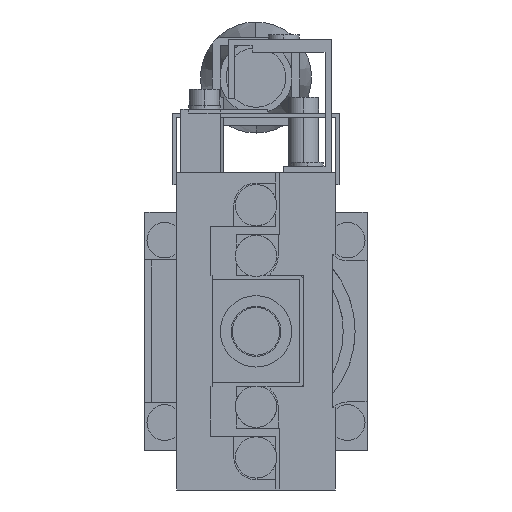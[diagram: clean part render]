
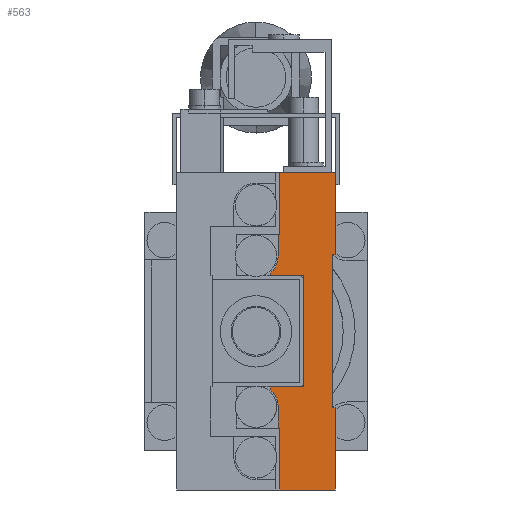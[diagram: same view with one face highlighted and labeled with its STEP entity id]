
A CAD part, left-side view. The second image highlights one B-rep face of the part: STEP entity #563.
In plain terms, the highlighted planar face has unit normal (-1, 0, 0).
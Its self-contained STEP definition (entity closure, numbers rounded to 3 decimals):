
#563=ADVANCED_FACE('',(#1567),#1568,.F.);
#1567=FACE_OUTER_BOUND('',#3120,.T.);
#1568=PLANE('',#3121);
#3120=EDGE_LOOP('',(#6092,#6093,#6094,#6095,#6096,#6097,#6098,#6099,#6100,#6101,#6102,#6103,#6104,#6105,#6106,#6107,#6108,#6109,#6110,#6111));
#3121=AXIS2_PLACEMENT_3D('',#6112,#6113,#6114);
#6092=ORIENTED_EDGE('',*,*,#10488,.T.);
#6093=ORIENTED_EDGE('',*,*,#10552,.T.);
#6094=ORIENTED_EDGE('',*,*,#10497,.T.);
#6095=ORIENTED_EDGE('',*,*,#10612,.F.);
#6096=ORIENTED_EDGE('',*,*,#10613,.F.);
#6097=ORIENTED_EDGE('',*,*,#10534,.F.);
#6098=ORIENTED_EDGE('',*,*,#10603,.F.);
#6099=ORIENTED_EDGE('',*,*,#10614,.F.);
#6100=ORIENTED_EDGE('',*,*,#10476,.F.);
#6101=ORIENTED_EDGE('',*,*,#10527,.F.);
#6102=ORIENTED_EDGE('',*,*,#10615,.F.);
#6103=ORIENTED_EDGE('',*,*,#10562,.F.);
#6104=ORIENTED_EDGE('',*,*,#10541,.F.);
#6105=ORIENTED_EDGE('',*,*,#10616,.F.);
#6106=ORIENTED_EDGE('',*,*,#10617,.T.);
#6107=ORIENTED_EDGE('',*,*,#10549,.T.);
#6108=ORIENTED_EDGE('',*,*,#10505,.T.);
#6109=ORIENTED_EDGE('',*,*,#10569,.F.);
#6110=ORIENTED_EDGE('',*,*,#10482,.F.);
#6111=ORIENTED_EDGE('',*,*,#10618,.F.);
#6112=CARTESIAN_POINT('',(-20.0,0.,0.0));
#6113=DIRECTION('',(1.0,0.0,0.0));
#6114=DIRECTION('',(0.0,1.0,0.0));
#10476=EDGE_CURVE('',#12623,#12625,#12626,.T.);
#10482=EDGE_CURVE('',#12634,#12636,#12637,.T.);
#10488=EDGE_CURVE('',#12646,#12647,#12648,.T.);
#10497=EDGE_CURVE('',#12660,#12661,#12662,.T.);
#10505=EDGE_CURVE('',#12676,#12677,#12678,.T.);
#10527=EDGE_CURVE('',#12707,#12623,#12709,.T.);
#10534=EDGE_CURVE('',#12721,#12717,#12723,.T.);
#10541=EDGE_CURVE('',#12732,#12734,#12735,.T.);
#10549=EDGE_CURVE('',#12746,#12676,#12747,.T.);
#10552=EDGE_CURVE('',#12647,#12660,#12751,.T.);
#10562=EDGE_CURVE('',#12734,#12766,#12767,.T.);
#10569=EDGE_CURVE('',#12636,#12677,#12774,.T.);
#10603=EDGE_CURVE('',#12821,#12721,#12823,.T.);
#10612=EDGE_CURVE('',#12832,#12661,#12834,.T.);
#10613=EDGE_CURVE('',#12717,#12832,#12835,.T.);
#10614=EDGE_CURVE('',#12625,#12821,#12836,.T.);
#10615=EDGE_CURVE('',#12766,#12707,#12837,.T.);
#10616=EDGE_CURVE('',#12838,#12732,#12839,.T.);
#10617=EDGE_CURVE('',#12838,#12746,#12840,.T.);
#10618=EDGE_CURVE('',#12646,#12634,#12841,.T.);
#12623=VERTEX_POINT('',#15889);
#12625=VERTEX_POINT('',#15892);
#12626=LINE('',#15893,#15894);
#12634=VERTEX_POINT('',#15905);
#12636=VERTEX_POINT('',#15908);
#12637=LINE('',#15909,#15910);
#12646=VERTEX_POINT('',#15922);
#12647=VERTEX_POINT('',#15923);
#12648=LINE('',#15924,#15925);
#12660=VERTEX_POINT('',#15940);
#12661=VERTEX_POINT('',#15941);
#12662=LINE('',#15942,#15943);
#12676=VERTEX_POINT('',#15964);
#12677=VERTEX_POINT('',#15965);
#12678=LINE('',#15966,#15967);
#12707=VERTEX_POINT('',#16001);
#12709=LINE('',#16004,#16005);
#12717=VERTEX_POINT('',#16015);
#12721=VERTEX_POINT('',#16021);
#12723=LINE('',#16024,#16025);
#12732=VERTEX_POINT('',#16037);
#12734=VERTEX_POINT('',#16040);
#12735=LINE('',#16041,#16042);
#12746=VERTEX_POINT('',#16060);
#12747=CIRCLE('',#16061,2.8);
#12751=CIRCLE('',#16066,2.8);
#12766=VERTEX_POINT('',#16084);
#12767=LINE('',#16085,#16086);
#12774=LINE('',#16099,#16100);
#12821=VERTEX_POINT('',#16173);
#12823=LINE('',#16176,#16177);
#12832=VERTEX_POINT('',#16189);
#12834=LINE('',#16192,#16193);
#12835=LINE('',#16194,#16195);
#12836=LINE('',#16196,#16197);
#12837=LINE('',#16198,#16199);
#12838=VERTEX_POINT('',#16200);
#12839=LINE('',#16201,#16202);
#12840=LINE('',#16203,#16204);
#12841=LINE('',#16205,#16206);
#15889=CARTESIAN_POINT('',(-20.0,0.35,9.65));
#15892=CARTESIAN_POINT('',(-20.0,0.35,-9.65));
#15893=CARTESIAN_POINT('',(-20.0,0.35,9.65));
#15894=VECTOR('',#20024,1000.0);
#15905=CARTESIAN_POINT('',(-20.0,4.0,-7.0));
#15908=CARTESIAN_POINT('',(-20.0,4.0,7.0));
#15909=CARTESIAN_POINT('',(-20.0,4.0,-7.0));
#15910=VECTOR('',#20032,1000.0);
#15922=CARTESIAN_POINT('',(-20.0,8.2,-7.0));
#15923=CARTESIAN_POINT('',(-20.0,8.2,-7.355));
#15924=CARTESIAN_POINT('',(-20.0,8.2,-7.0));
#15925=VECTOR('',#20042,1000.0);
#15940=CARTESIAN_POINT('',(-20.0,7.2,-9.5));
#15941=CARTESIAN_POINT('',(-20.0,7.2,-12.2));
#15942=CARTESIAN_POINT('',(-20.0,7.2,-9.5));
#15943=VECTOR('',#20061,1000.0);
#15964=CARTESIAN_POINT('',(-20.0,8.2,7.355));
#15965=CARTESIAN_POINT('',(-20.0,8.2,7.0));
#15966=CARTESIAN_POINT('',(-20.0,8.2,7.355));
#15967=VECTOR('',#20069,1000.0);
#16001=CARTESIAN_POINT('',(-20.0,0.,9.65));
#16004=CARTESIAN_POINT('',(-20.0,0.,9.65));
#16005=VECTOR('',#20121,1000.0);
#16015=CARTESIAN_POINT('',(-20.0,7.0,-20.0));
#16021=CARTESIAN_POINT('',(-20.0,0.,-20.0));
#16024=CARTESIAN_POINT('',(-20.0,0.,-20.0));
#16025=VECTOR('',#20130,1000.0);
#16037=CARTESIAN_POINT('',(-20.0,7.0,12.2));
#16040=CARTESIAN_POINT('',(-20.0,7.0,20.0));
#16041=CARTESIAN_POINT('',(-20.0,7.0,12.2));
#16042=VECTOR('',#20141,1000.0);
#16060=CARTESIAN_POINT('',(-20.0,7.2,9.5));
#16061=AXIS2_PLACEMENT_3D('',#20149,#20150,#20151);
#16066=AXIS2_PLACEMENT_3D('',#20156,#20157,#20158);
#16084=CARTESIAN_POINT('',(-20.0,0.,20.0));
#16085=CARTESIAN_POINT('',(-20.0,7.0,20.0));
#16086=VECTOR('',#20180,1000.0);
#16099=CARTESIAN_POINT('',(-20.0,4.0,7.0));
#16100=VECTOR('',#20187,1000.0);
#16173=CARTESIAN_POINT('',(-20.0,0.,-9.65));
#16176=CARTESIAN_POINT('',(-20.0,0.,-9.65));
#16177=VECTOR('',#20233,1000.0);
#16189=CARTESIAN_POINT('',(-20.0,7.0,-12.2));
#16192=CARTESIAN_POINT('',(-20.0,7.0,-12.2));
#16193=VECTOR('',#20250,1000.0);
#16194=CARTESIAN_POINT('',(-20.0,7.0,-20.0));
#16195=VECTOR('',#20251,1000.0);
#16196=CARTESIAN_POINT('',(-20.0,0.35,-9.65));
#16197=VECTOR('',#20252,1000.0);
#16198=CARTESIAN_POINT('',(-20.0,0.,20.0));
#16199=VECTOR('',#20253,1000.0);
#16200=CARTESIAN_POINT('',(-20.0,7.2,12.2));
#16201=CARTESIAN_POINT('',(-20.0,12.5,12.2));
#16202=VECTOR('',#20254,1000.0);
#16203=CARTESIAN_POINT('',(-20.0,7.2,12.2));
#16204=VECTOR('',#20255,1000.0);
#16205=CARTESIAN_POINT('',(-20.0,12.5,-7.0));
#16206=VECTOR('',#20256,1000.0);
#20024=DIRECTION('',(0.0,0.0,-1.0));
#20032=DIRECTION('',(0.0,0.0,1.0));
#20042=DIRECTION('',(0.0,0.0,-1.0));
#20061=DIRECTION('',(0.0,0.0,-1.0));
#20069=DIRECTION('',(0.0,0.0,-1.0));
#20121=DIRECTION('',(0.0,1.0,0.0));
#20130=DIRECTION('',(0.0,1.0,0.0));
#20141=DIRECTION('',(0.0,0.,1.0));
#20149=CARTESIAN_POINT('',(-20.0,10.0,9.5));
#20150=DIRECTION('',(1.0,0.0,0.0));
#20151=DIRECTION('',(0.0,0.0,-1.0));
#20156=CARTESIAN_POINT('',(-20.0,10.0,-9.5));
#20157=DIRECTION('',(1.0,0.0,0.0));
#20158=DIRECTION('',(0.0,0.0,-1.0));
#20180=DIRECTION('',(0.0,-1.0,0.0));
#20187=DIRECTION('',(0.0,1.0,0.0));
#20233=DIRECTION('',(0.0,0.0,-1.0));
#20250=DIRECTION('',(0.0,1.0,0.0));
#20251=DIRECTION('',(0.0,0.,1.0));
#20252=DIRECTION('',(0.0,-1.0,0.0));
#20253=DIRECTION('',(0.0,0.0,-1.0));
#20254=DIRECTION('',(0.0,-1.0,0.));
#20255=DIRECTION('',(0.0,0.0,-1.0));
#20256=DIRECTION('',(0.0,-1.0,0.0));
